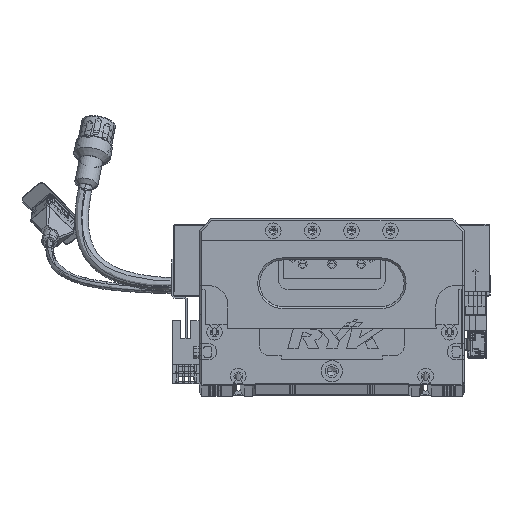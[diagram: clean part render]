
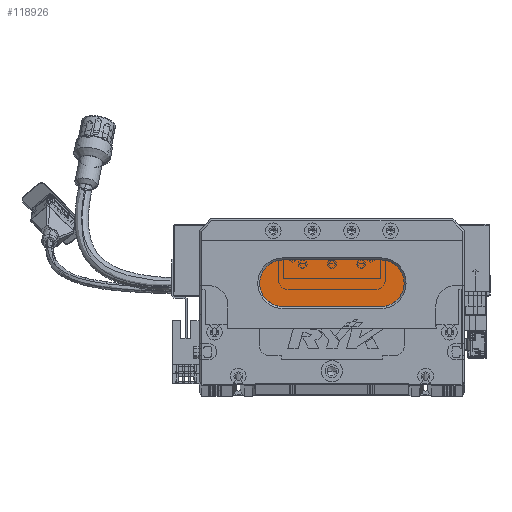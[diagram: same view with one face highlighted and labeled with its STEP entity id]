
A CAD part, top view. The second image highlights one B-rep face of the part: STEP entity #118926.
In plain terms, the highlighted planar face has unit normal (0, 0, 1) as drawn and (0, 0, -1) by its records, which use the part's own axes.
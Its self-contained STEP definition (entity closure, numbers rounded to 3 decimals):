
#1717 = VECTOR ( 'NONE', #72040, 1000. ) ;
#7460 = AXIS2_PLACEMENT_3D ( 'NONE', #87127, #68778, #14109 ) ;
#9880 = DIRECTION ( 'NONE',  ( -1., 0., 0. ) ) ;
#12223 = PLANE ( 'NONE',  #7460 ) ;
#14109 = DIRECTION ( 'NONE',  ( -1., 0., 0. ) ) ;
#15123 = EDGE_LOOP ( 'NONE', ( #40515, #71463, #33358, #98413, #103599 ) ) ;
#15471 = LINE ( 'NONE', #27481, #1717 ) ;
#16341 = EDGE_CURVE ( 'NONE', #92797, #110251, #96095, .T. ) ;
#17859 = CARTESIAN_POINT ( 'NONE',  ( 93., 40., 13. ) ) ;
#19464 = DIRECTION ( 'NONE',  ( 0., 0., -1. ) ) ;
#20752 = CIRCLE ( 'NONE', #82891, 12. ) ;
#23964 = DIRECTION ( 'NONE',  ( -1., 0., 0. ) ) ;
#27481 = CARTESIAN_POINT ( 'NONE',  ( 93., 40., 13. ) ) ;
#33358 = ORIENTED_EDGE ( 'NONE', *, *, #141175, .T. ) ;
#33808 = DIRECTION ( 'NONE',  ( 1., 0., 0. ) ) ;
#34227 = VECTOR ( 'NONE', #33808, 1000. ) ;
#35817 = CIRCLE ( 'NONE', #109514, 12. ) ;
#40515 = ORIENTED_EDGE ( 'NONE', *, *, #87068, .T. ) ;
#50265 = CARTESIAN_POINT ( 'NONE',  ( 31., 52., 13. ) ) ;
#52357 = CARTESIAN_POINT ( 'NONE',  ( 43., 64., 13. ) ) ;
#65616 = VERTEX_POINT ( 'NONE', #50265 ) ;
#68196 = CARTESIAN_POINT ( 'NONE',  ( 93., 64., 13. ) ) ;
#68778 = DIRECTION ( 'NONE',  ( 0., 0., -1. ) ) ;
#71463 = ORIENTED_EDGE ( 'NONE', *, *, #85847, .T. ) ;
#72040 = DIRECTION ( 'NONE',  ( -1., 0., 0. ) ) ;
#77699 = CARTESIAN_POINT ( 'NONE',  ( 43., 52., 13. ) ) ;
#82891 = AXIS2_PLACEMENT_3D ( 'NONE', #77699, #88761, #23964 ) ;
#85847 = EDGE_CURVE ( 'NONE', #87517, #121083, #15471, .T. ) ;
#87068 = EDGE_CURVE ( 'NONE', #110251, #87517, #35817, .T. ) ;
#87127 = CARTESIAN_POINT ( 'NONE',  ( 93., 52., 13. ) ) ;
#87517 = VERTEX_POINT ( 'NONE', #17859 ) ;
#88761 = DIRECTION ( 'NONE',  ( 0., 0., -1. ) ) ;
#92797 = VERTEX_POINT ( 'NONE', #52357 ) ;
#96095 = LINE ( 'NONE', #132069, #34227 ) ;
#97230 = CARTESIAN_POINT ( 'NONE',  ( 93., 52., 13. ) ) ;
#98413 = ORIENTED_EDGE ( 'NONE', *, *, #125804, .T. ) ;
#99363 = CARTESIAN_POINT ( 'NONE',  ( 43., 40., 13. ) ) ;
#101803 = AXIS2_PLACEMENT_3D ( 'NONE', #140745, #108653, #129294 ) ;
#103599 = ORIENTED_EDGE ( 'NONE', *, *, #16341, .T. ) ;
#104782 = FACE_OUTER_BOUND ( 'NONE', #15123, .T. ) ;
#108653 = DIRECTION ( 'NONE',  ( 0., 0., -1. ) ) ;
#109514 = AXIS2_PLACEMENT_3D ( 'NONE', #97230, #19464, #9880 ) ;
#110251 = VERTEX_POINT ( 'NONE', #68196 ) ;
#118926 = ADVANCED_FACE ( 'NONE', ( #104782 ), #12223, .T. ) ;
#120034 = CIRCLE ( 'NONE', #101803, 12. ) ;
#121083 = VERTEX_POINT ( 'NONE', #99363 ) ;
#125804 = EDGE_CURVE ( 'NONE', #65616, #92797, #20752, .T. ) ;
#129294 = DIRECTION ( 'NONE',  ( -1., 0., 0. ) ) ;
#132069 = CARTESIAN_POINT ( 'NONE',  ( 93., 64., 13. ) ) ;
#140745 = CARTESIAN_POINT ( 'NONE',  ( 43., 52., 13. ) ) ;
#141175 = EDGE_CURVE ( 'NONE', #121083, #65616, #120034, .T. ) ;
